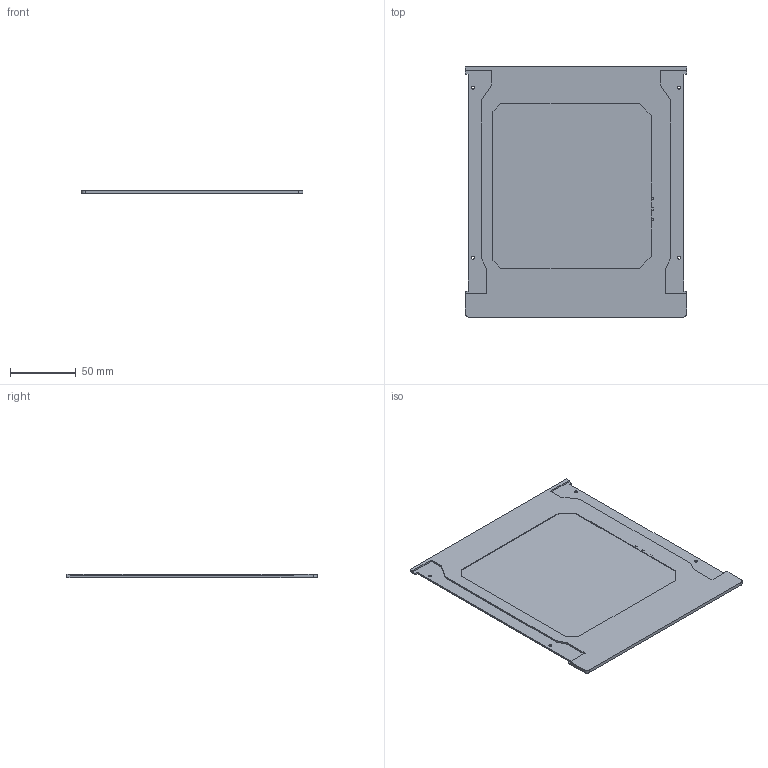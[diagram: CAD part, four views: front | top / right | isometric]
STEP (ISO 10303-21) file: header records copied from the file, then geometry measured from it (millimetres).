
FILE_DESCRIPTION(('Open CASCADE Model'),'2;1');
FILE_NAME('Open CASCADE Shape Model','2026-11-07T14:43:38',('Author'),( 'Open CASCADE'),'Open CASCADE STEP processor 7.9','Open CASCADE 7.9' ,'Unknown');
FILE_SCHEMA(('AUTOMOTIVE_DESIGN { 1 0 10303 214 1 1 1 1 }'));
Length unit declared in the file: millimetre
Products named in the file (1): Open CASCADE STEP translator 7.9 16
Bounding box: 168 x 189.8 x 2.5 mm (x, y, z)
Volume: 64394.2 mm3; surface area: 64500.6 mm2
Topology: 1 solids, 1 shells, 57 faces, 162 edges, 108 vertices
Faces by surface type: plane 51, cylinder 6
Full cylindrical faces by diameter (mm): 2.3 x4
Entity records: 3864 total; most frequent: CARTESIAN_POINT 838, DIRECTION 478, LINE 336, VECTOR 336, ORIENTED_EDGE 324, PCURVE 324, DEFINITIONAL_REPRESENTATION 324, EDGE_CURVE 162
